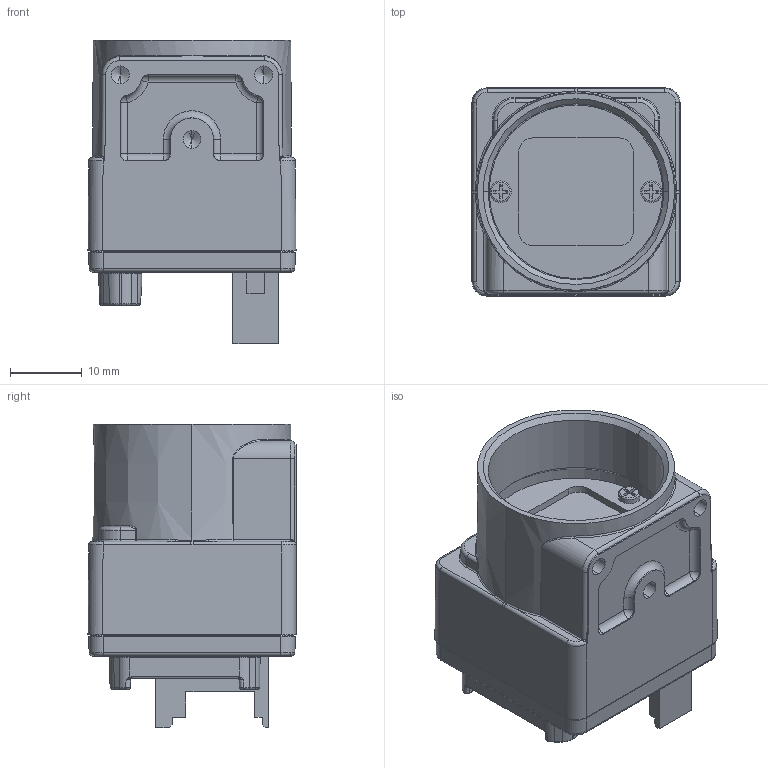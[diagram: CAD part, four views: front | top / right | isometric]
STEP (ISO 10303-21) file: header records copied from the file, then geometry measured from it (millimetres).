
FILE_DESCRIPTION (( 'STEP AP214' ), '1' );
FILE_NAME ('BU040MG-1503211021.STEP', '2021-10-21T03:01:47', ( '' ), ( '' ), 'SwSTEP 2.0', 'SolidWorks 2017', '' );
FILE_SCHEMA (( 'AUTOMOTIVE_DESIGN' ));
Length unit declared in the file: millimetre
Products named in the file (1): BU040MG-1503211021
Bounding box: 29 x 29 x 42.25 mm (x, y, z)
Volume: 19124.6 mm3; surface area: 8893.3 mm2
Topology: 4 solids, 5 shells, 1717 faces, 4583 edges, 2917 vertices
Faces by surface type: plane 1111, cylinder 360, bspline 151, torus 44, cone 37, sphere 14
Entity records: 75219 total; most frequent: CARTESIAN_POINT 16017, ORIENTED_EDGE 9114, DIRECTION 7281, EDGE_CURVE 4557, LINE 3049, VECTOR 3049, VERTEX_POINT 2917, AXIS2_PLACEMENT_3D 2116
